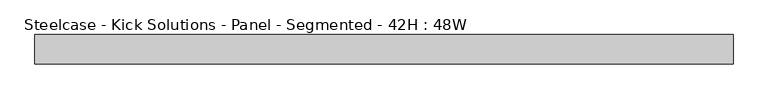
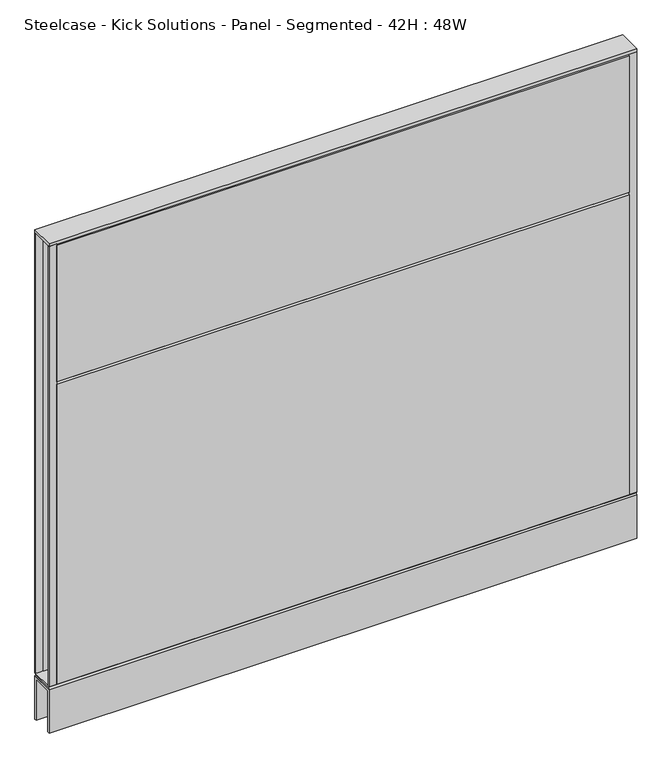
"""IFC4 building model written with IfcOpenShell, lengths in millimetres: furniture geometry, Steelcase - Kick Solutions - Panel - Segmented - 42H : 48W."""

from ifc_helpers import new_model, si_unit, frame, origin, place, context, project, spatial, polyline, outline, extrude, source, transform, mapped, element, save


def steelcase_kick_solutions_panel_segmented_42h_48w_0ff7b481(model_context):
    return source(origin(), model_context, "Body", "SweptSolid", [
        extrude(outline(polyline([(1.5e-06, 101.600003), (-3.175, 101.600003), (-3.175, 1066.8), (1.5e-06, 1063.7188448), (1.5e-06, 101.600003)])), frame((15.8749996, 0.0, 0.0), z_axis=(1.0, 0.0, 0.0), x_axis=(0.0, 1.0, 0.0)), (0.0, 0.0, 1.0), 1187.4500008),
        extrude(outline(polyline([(-50.8000015, 765.0811552), (-50.8000015, 1063.7188448), (-47.625, 1066.8), (-47.625, 762.0), (-50.8000015, 765.0811552)])), frame((15.8749996, 0.0, 0.0), z_axis=(1.0, 0.0, 0.0), x_axis=(0.0, 1.0, 0.0)), (0.0, 0.0, 1.0), 1187.4500008),
        extrude(outline(polyline([(-50.8000015, 101.600003), (-50.8000015, 758.9188448), (-47.625, 762.0), (-47.625, 101.600003), (-50.8000015, 101.600003)])), frame((15.8749996, 0.0, 0.0), z_axis=(1.0, 0.0, 0.0), x_axis=(0.0, 1.0, 0.0)), (0.0, 0.0, 1.0), 1187.4500008),
        extrude(outline(polyline([(1219.2, -3.1750015), (1203.3250004, -3.1750015), (1203.3250004, 0.0), (1219.2, 0.0), (1219.2, -3.1750015)])), frame((0.0, 0.0, 101.7169049), z_axis=(0.0, 0.0, 1.0), x_axis=(1.0, 0.0, 0.0)), (0.0, 0.0, 1.0), 965.199997),
        extrude(outline(polyline([(15.8749996, -50.8000015), (0.0, -50.8000015), (0.0, -47.625), (15.8749996, -47.625), (15.8749996, -50.8000015)])), frame((0.0, 0.0, 101.7169049), z_axis=(0.0, 0.0, 1.0), x_axis=(1.0, 0.0, 0.0)), (0.0, 0.0, 1.0), 965.199997),
        extrude(outline(polyline([(-50.7995075, 101.7169049), (-0.000494, 101.7169049), (-3.0583512, 98.5421458), (-47.7416503, 98.5421458), (-50.7995075, 101.7169049)])), frame((0.0, 0.0, 0.0), z_axis=(1.0, 0.0, 0.0), x_axis=(0.0, 1.0, 0.0)), (0.0, 0.0, 1.0), 1219.2),
        extrude(outline(polyline([(1219.2, 0.0), (1219.2, -50.8000015), (0.0, -50.8000015), (0.0, 0.0), (1219.2, 0.0)])), frame((0.0, 0.0, 1066.9169018), z_axis=(0.0, 0.0, 1.0), x_axis=(1.0, 0.0, 0.0)), (0.0, 0.0, 1.0), 6.35),
        extrude(outline(polyline([(15.8749996, -3.1750015), (0.0, -3.1750015), (0.0, 0.0), (15.8749996, 0.0), (15.8749996, -3.1750015)])), frame((0.0, 0.0, 101.7169049), z_axis=(0.0, 0.0, 1.0), x_axis=(1.0, 0.0, 0.0)), (0.0, 0.0, 1.0), 965.199997),
        extrude(outline(polyline([(1219.2, -50.8000015), (1203.3250004, -50.8000015), (1203.3250004, -47.625), (1219.2, -47.625), (1219.2, -50.8000015)])), frame((0.0, 0.0, 101.7169049), z_axis=(0.0, 0.0, 1.0), x_axis=(1.0, 0.0, 0.0)), (0.0, 0.0, 1.0), 965.199997),
        extrude(outline(polyline([(-50.8000015, 95.3668927), (-47.6247484, 98.5421458), (-3.1752531, 98.5421458), (0.0, 95.3668927), (-50.8000015, 95.3668927)])), frame((0.0, 0.0, 0.0), z_axis=(1.0, 0.0, 0.0), x_axis=(0.0, 1.0, 0.0)), (0.0, 0.0, 1.0), 1219.2),
        extrude(outline(polyline([(0.0, 0.0), (-5.08, 0.0), (-5.08, 90.2869018), (-45.7200015, 90.2869018), (-45.7200015, 0.0), (-50.8000015, 0.0), (-50.8000015, 95.3669018), (0.0, 95.3669018), (0.0, 0.0)])), frame((0.0, 0.0, 0.0), z_axis=(1.0, 0.0, 0.0), x_axis=(0.0, 1.0, 0.0)), (0.0, 0.0, 1.0), 1219.2),
    ])


if __name__ == "__main__":
    model = new_model("IFC4")
    model_context = context("Model", 3, world=origin())
    ifc_project = project(units=[si_unit("LENGTHUNIT", "METRE", prefix="MILLI")], contexts=[model_context])
    site = spatial("IfcSite", under=ifc_project)
    building = spatial("IfcBuilding", under=site)
    placement = place(None, origin())
    steelcase_kick_solutions_panel_segmented_42h_48w_shape = steelcase_kick_solutions_panel_segmented_42h_48w_0ff7b481(model_context)
    element("IfcFurniture", 1, ObjectType="Steelcase - Kick Solutions - Panel - Segmented - 42H : 48W", at=placement, inside=building, context=model_context, shape_type="MappedRepresentation", body=[
        mapped(steelcase_kick_solutions_panel_segmented_42h_48w_shape, transform((0.0, 0.0, 0.0), x_axis=(1.0, 0.0, 0.0), y_axis=(0.0, 1.0, 0.0), z_axis=(0.0, 0.0, 1.0))),
    ])
    save(model, "model.ifc")
